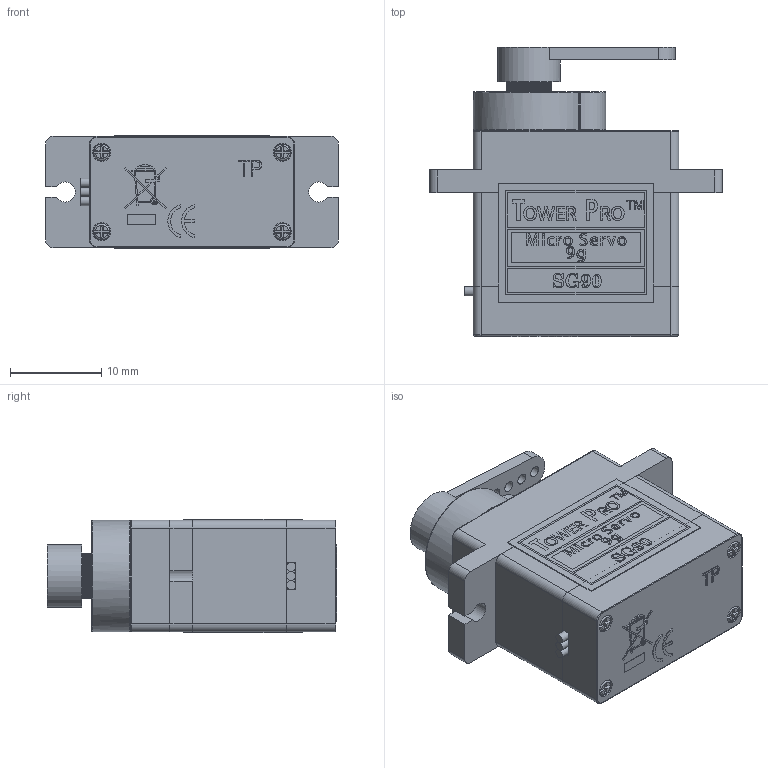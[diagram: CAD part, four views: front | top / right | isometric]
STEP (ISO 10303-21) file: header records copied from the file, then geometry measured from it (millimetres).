
FILE_DESCRIPTION(/* description */ (''),/* implementation_level */ '2;1');
FILE_NAME(/* name */ 'SG90 - Micro Servo 9g - Tower Pro.step',/* time_stamp */ '2025-04-22T12:58:01+05:30',/* author */ (''),/* organization */ (''),/* preprocessor_version */ 'ST-DEVELOPER v20.1',/* originating_system */ 'Autodesk Translation Framework v14.4.0.0',/* authorisation */ '');
FILE_SCHEMA (('AUTOMOTIVE_DESIGN { 1 0 10303 214 3 1 1 }'));
Length unit declared in the file: millimetre
Products named in the file (4): SG90 - Micro Servo 9g - Tower Pro; SG90 - Micro Servo 9g - Tower Pro.1_Pea; SG90 - Micro Servo 9g - Tower Pro.2_Pea; SG90 - Micro Servo 9g - Tower Pro.6_BS EN ISO 7045 - M2 x 4 - Z - 4S
Assembly tree (3 placements, depth 2):
  SG90 - Micro Servo 9g - Tower Pro
    SG90 - Micro Servo 9g - Tower Pro.1_Pea
    SG90 - Micro Servo 9g - Tower Pro.2_Pea
    SG90 - Micro Servo 9g - Tower Pro.6_BS EN ISO 7045 - M2 x 4 - Z - 4S
Bounding box: 32.1 x 31.75 x 12.4 mm (x, y, z)
Volume: 7209.8 mm3; surface area: 5351.6 mm2
Topology: 15 solids, 15 shells, 837 faces, 2815 edges, 2120 vertices
Faces by surface type: plane 562, cylinder 207, torus 25, bspline 23, cone 18, sphere 2
Full cylindrical faces by diameter (mm): 0.2 x1, 0.5 x1, 1 x3, 1.2 x6, 1.6 x2, 1.8 x4, 2 x13, 2.1 x1, 4.6 x1, 5 x1, 6.9 x1
Entity records: 38363 total; most frequent: CARTESIAN_POINT 13640, ORIENTED_EDGE 5626, DIRECTION 4380, EDGE_CURVE 2813, VERTEX_POINT 2120, LINE 1708, VECTOR 1708, AXIS2_PLACEMENT_3D 1336
